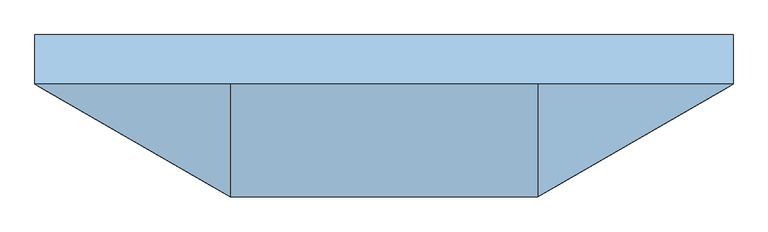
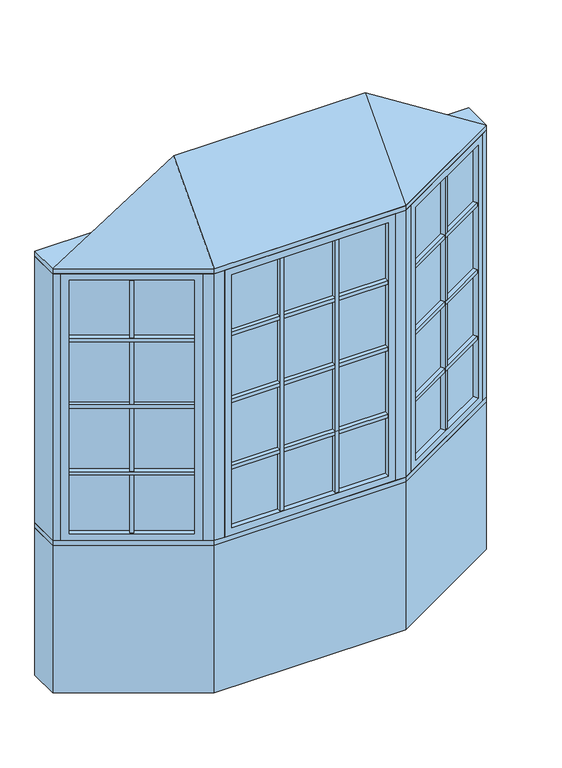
"""IFC4 building model written with IfcOpenShell, lengths in millimetres: window geometry, Pollard_Windows_Tudor Casement Bows and Bays : AML-BAY 30 AFR0614-10-600_GC."""

from ifc_helpers import new_model, si_unit, frame, origin, origin_with_axes, place, context, project, spatial, polyline, outline, extrude, faceted_brep, source, transform, mapped, element, save


def window_83c77013(model_context):
    return source(origin(), model_context, "Body", "SolidModel", [
        extrude(outline(polyline([(546.881999, -376.6297343), (535.881999, -357.5771754), (1002.1135794, -88.3982469), (1013.1135794, -107.4508058), (546.881999, -376.6297343)])), frame((0.0, 0.0, 1490.998), z_axis=(0.0, 0.0, 1.0), x_axis=(1.0, 0.0, 0.0)), (0.0, 0.0, 1.0), 18.0),
        extrude(outline(polyline([(533.341999, -353.1777664), (522.341999, -334.1252075), (988.5735794, -64.946279), (999.5735794, -83.9988379), (533.341999, -353.1777664)])), frame((0.0, 0.0, 1490.998), z_axis=(0.0, 0.0, 1.0), x_axis=(1.0, 0.0, 0.0)), (0.0, 0.0, 1.0), 18.0),
        extrude(outline(polyline([(546.881999, -376.6297343), (535.881999, -357.5771754), (1002.1135794, -88.3982469), (1013.1135794, -107.4508058), (546.881999, -376.6297343)])), frame((0.0, 0.0, 1140.998), z_axis=(0.0, 0.0, 1.0), x_axis=(1.0, 0.0, 0.0)), (0.0, 0.0, 1.0), 18.0),
        extrude(outline(polyline([(533.341999, -353.1777664), (522.341999, -334.1252075), (988.5735794, -64.946279), (999.5735794, -83.9988379), (533.341999, -353.1777664)])), frame((0.0, 0.0, 1140.998), z_axis=(0.0, 0.0, 1.0), x_axis=(1.0, 0.0, 0.0)), (0.0, 0.0, 1.0), 18.0),
        extrude(outline(polyline([(546.881999, -376.6297343), (535.881999, -357.5771754), (1002.1135794, -88.3982469), (1013.1135794, -107.4508058), (546.881999, -376.6297343)])), frame((0.0, 0.0, 1490.998), z_axis=(0.0, 0.0, 1.0), x_axis=(1.0, 0.0, 0.0)), (0.0, 0.0, 1.0), 18.0),
        extrude(outline(polyline([(533.341999, -353.1777664), (522.341999, -334.1252075), (988.5735794, -64.946279), (999.5735794, -83.9988379), (533.341999, -353.1777664)])), frame((0.0, 0.0, 1490.998), z_axis=(0.0, 0.0, 1.0), x_axis=(1.0, 0.0, 0.0)), (0.0, 0.0, 1.0), 18.0),
        extrude(outline(polyline([(546.881999, -376.6297343), (535.881999, -357.5771754), (1002.1135794, -88.3982469), (1013.1135794, -107.4508058), (546.881999, -376.6297343)])), frame((0.0, 0.0, 1490.998), z_axis=(0.0, 0.0, 1.0), x_axis=(1.0, 0.0, 0.0)), (0.0, 0.0, 1.0), 18.0),
        extrude(outline(polyline([(533.341999, -353.1777664), (522.341999, -334.1252075), (988.5735794, -64.946279), (999.5735794, -83.9988379), (533.341999, -353.1777664)])), frame((0.0, 0.0, 1490.998), z_axis=(0.0, 0.0, 1.0), x_axis=(1.0, 0.0, 0.0)), (0.0, 0.0, 1.0), 18.0),
        extrude(outline(polyline([(546.881999, -376.6297343), (535.881999, -357.5771754), (1002.1135794, -88.3982469), (1013.1135794, -107.4508058), (546.881999, -376.6297343)])), frame((0.0, 0.0, 1840.998), z_axis=(0.0, 0.0, 1.0), x_axis=(1.0, 0.0, 0.0)), (0.0, 0.0, 1.0), 18.0),
        extrude(outline(polyline([(533.341999, -353.1777664), (522.341999, -334.1252075), (988.5735794, -64.946279), (999.5735794, -83.9988379), (533.341999, -353.1777664)])), frame((0.0, 0.0, 1840.998), z_axis=(0.0, 0.0, 1.0), x_axis=(1.0, 0.0, 0.0)), (0.0, 0.0, 1.0), 18.0),
        extrude(outline(polyline([(776.7920178, -218.4877112), (787.7920178, -237.5402701), (772.2035606, -246.5402701), (761.2035606, -227.4877112), (776.7920178, -218.4877112)])), frame((0.0, 0.0, 835.8628), z_axis=(0.0, 0.0, 1.0), x_axis=(1.0, 0.0, 0.0)), (0.0, 0.0, 1.0), 1328.2704),
        extrude(outline(polyline([(774.2520178, -214.0883021), (758.6635606, -223.0883021), (747.6635606, -204.0357432), (763.2520178, -195.0357432), (774.2520178, -214.0883021)])), frame((0.0, 0.0, 835.8628), z_axis=(0.0, 0.0, 1.0), x_axis=(1.0, 0.0, 0.0)), (0.0, 0.0, 1.0), 1328.2704),
        extrude(outline(polyline([(1013.112102, -82.0482469), (524.8834764, -363.9271754), (522.3434764, -359.5277664), (1010.572102, -77.6488379), (1013.112102, -82.0482469)])), frame((0.0, 0.0, 823.1628), z_axis=(0.0, 0.0, 1.0), x_axis=(1.0, 0.0, 0.0)), (0.0, 0.0, 1.0), 1353.6704),
        faceted_brep([(1002.1135794, -88.3982469, 835.8628), (1014.8135794, -110.3952922, 835.8628), (1014.8135794, -110.3952922, 2164.1332), (1002.1135794, -88.3982469, 2164.1332), (1010.572102, -77.6488379, 823.1628), (1013.112102, -82.0482469, 823.1628), (1013.112102, -82.0482469, 2176.8332), (1010.572102, -77.6488379, 2176.8332), (986.8735794, -62.0017926, 835.8628), (999.5735794, -83.9988379, 835.8628), (999.5735794, -83.9988379, 2164.1332), (986.8735794, -62.0017926, 2164.1332), (1045.8734073, -92.4628922, 799.998), (1017.9334073, -44.0693926, 799.998), (1017.9334073, -44.0693926, 2199.998), (1045.8734073, -92.4628922, 2199.998), (548.581999, -379.5742207, 2164.1332), (535.881999, -357.5771754, 2164.1332), (524.8834764, -363.9271754, 2176.8332), (522.3434764, -359.5277664, 2176.8332), (533.341999, -353.1777664, 2164.1332), (520.641999, -331.1807211, 2164.1332), (489.5821711, -349.1131211, 2199.998), (517.5221711, -397.5066207, 2199.998), (548.581999, -379.5742207, 835.8628), (535.881999, -357.5771754, 835.8628), (524.8834764, -363.9271754, 823.1628), (522.3434764, -359.5277664, 823.1628), (533.341999, -353.1777664, 835.8628), (520.641999, -331.1807211, 835.8628), (489.5821711, -349.1131211, 799.998), (517.5221711, -397.5066207, 799.998)], [[[0, 1, 2, 3]], [[4, 5, 6, 7]], [[8, 9, 10, 11]], [[12, 13, 14, 15]], [[3, 2, 16, 17]], [[7, 6, 18, 19]], [[11, 10, 20, 21]], [[15, 14, 22, 23]], [[17, 16, 24, 25]], [[19, 18, 26, 27]], [[21, 20, 28, 29]], [[23, 22, 30, 31]], [[25, 24, 1, 0]], [[5, 26, 18, 6], [3, 17, 25, 0]], [[27, 26, 5, 4]], [[7, 19, 27, 4], [9, 28, 20, 10]], [[29, 28, 9, 8]], [[13, 30, 22, 14], [11, 21, 29, 8]], [[31, 30, 13, 12]], [[15, 23, 31, 12], [1, 24, 16, 2]]]),
        extrude(outline(polyline([(145.6855003, -397.1066207), (145.6855003, -419.1066207), (127.6855003, -419.1066207), (127.6855003, -397.1066207), (145.6855003, -397.1066207)])), frame((0.0, 0.0, 835.8628), z_axis=(0.0, 0.0, 1.0), x_axis=(1.0, 0.0, 0.0)), (0.0, 0.0, 1.0), 1328.2704),
        extrude(outline(polyline([(145.6855003, -392.0266207), (127.6855003, -392.0266207), (127.6855003, -370.0266207), (145.6855003, -370.0266207), (145.6855003, -392.0266207)])), frame((0.0, 0.0, 835.8628), z_axis=(0.0, 0.0, 1.0), x_axis=(1.0, 0.0, 0.0)), (0.0, 0.0, 1.0), 1328.2704),
        extrude(outline(polyline([(-127.6855003, -397.1066207), (-127.6855003, -419.1066207), (-145.6855003, -419.1066207), (-145.6855003, -397.1066207), (-127.6855003, -397.1066207)])), frame((0.0, 0.0, 835.8628), z_axis=(0.0, 0.0, 1.0), x_axis=(1.0, 0.0, 0.0)), (0.0, 0.0, 1.0), 1328.2704),
        extrude(outline(polyline([(-127.6855003, -392.0266207), (-145.6855003, -392.0266207), (-145.6855003, -370.0266207), (-127.6855003, -370.0266207), (-127.6855003, -392.0266207)])), frame((0.0, 0.0, 835.8628), z_axis=(0.0, 0.0, 1.0), x_axis=(1.0, 0.0, 0.0)), (0.0, 0.0, 1.0), 1328.2704),
        extrude(outline(polyline([(-388.3561009, -419.1066207), (-388.3561009, -397.1066207), (388.3561009, -397.1066207), (388.3561009, -419.1066207), (-388.3561009, -419.1066207)])), frame((0.0, 0.0, 1140.998), z_axis=(0.0, 0.0, 1.0), x_axis=(1.0, 0.0, 0.0)), (0.0, 0.0, 1.0), 18.0),
        extrude(outline(polyline([(-388.3561009, -392.0266207), (-388.3561009, -370.0266207), (388.3561009, -370.0266207), (388.3561009, -392.0266207), (-388.3561009, -392.0266207)])), frame((0.0, 0.0, 1140.998), z_axis=(0.0, 0.0, 1.0), x_axis=(1.0, 0.0, 0.0)), (0.0, 0.0, 1.0), 18.0),
        extrude(outline(polyline([(-388.3561009, -419.1066207), (-388.3561009, -397.1066207), (388.3561009, -397.1066207), (388.3561009, -419.1066207), (-388.3561009, -419.1066207)])), frame((0.0, 0.0, 1490.998), z_axis=(0.0, 0.0, 1.0), x_axis=(1.0, 0.0, 0.0)), (0.0, 0.0, 1.0), 18.0),
        extrude(outline(polyline([(-388.3561009, -392.0266207), (-388.3561009, -370.0266207), (388.3561009, -370.0266207), (388.3561009, -392.0266207), (-388.3561009, -392.0266207)])), frame((0.0, 0.0, 1490.998), z_axis=(0.0, 0.0, 1.0), x_axis=(1.0, 0.0, 0.0)), (0.0, 0.0, 1.0), 18.0),
        extrude(outline(polyline([(-388.3561009, -419.1066207), (-388.3561009, -397.1066207), (388.3561009, -397.1066207), (388.3561009, -419.1066207), (-388.3561009, -419.1066207)])), frame((0.0, 0.0, 1490.998), z_axis=(0.0, 0.0, 1.0), x_axis=(1.0, 0.0, 0.0)), (0.0, 0.0, 1.0), 18.0),
        extrude(outline(polyline([(-388.3561009, -392.0266207), (-388.3561009, -370.0266207), (388.3561009, -370.0266207), (388.3561009, -392.0266207), (-388.3561009, -392.0266207)])), frame((0.0, 0.0, 1490.998), z_axis=(0.0, 0.0, 1.0), x_axis=(1.0, 0.0, 0.0)), (0.0, 0.0, 1.0), 18.0),
        extrude(outline(polyline([(-388.3561009, -419.1066207), (-388.3561009, -397.1066207), (388.3561009, -397.1066207), (388.3561009, -419.1066207), (-388.3561009, -419.1066207)])), frame((0.0, 0.0, 1490.998), z_axis=(0.0, 0.0, 1.0), x_axis=(1.0, 0.0, 0.0)), (0.0, 0.0, 1.0), 18.0),
        extrude(outline(polyline([(-388.3561009, -392.0266207), (-388.3561009, -370.0266207), (388.3561009, -370.0266207), (388.3561009, -392.0266207), (-388.3561009, -392.0266207)])), frame((0.0, 0.0, 1490.998), z_axis=(0.0, 0.0, 1.0), x_axis=(1.0, 0.0, 0.0)), (0.0, 0.0, 1.0), 18.0),
        extrude(outline(polyline([(-1013.1135794, -107.4508058), (-1002.1135794, -88.3982469), (-535.881999, -357.5771754), (-546.881999, -376.6297343), (-1013.1135794, -107.4508058)])), frame((0.0, 0.0, 1140.998), z_axis=(0.0, 0.0, 1.0), x_axis=(1.0, 0.0, 0.0)), (0.0, 0.0, 1.0), 18.0),
        extrude(outline(polyline([(-999.5735794, -83.9988379), (-988.5735794, -64.946279), (-522.341999, -334.1252075), (-533.341999, -353.1777664), (-999.5735794, -83.9988379)])), frame((0.0, 0.0, 1140.998), z_axis=(0.0, 0.0, 1.0), x_axis=(1.0, 0.0, 0.0)), (0.0, 0.0, 1.0), 18.0),
        extrude(outline(polyline([(-1013.1135794, -107.4508058), (-1002.1135794, -88.3982469), (-535.881999, -357.5771754), (-546.881999, -376.6297343), (-1013.1135794, -107.4508058)])), frame((0.0, 0.0, 1490.998), z_axis=(0.0, 0.0, 1.0), x_axis=(1.0, 0.0, 0.0)), (0.0, 0.0, 1.0), 18.0),
        extrude(outline(polyline([(-999.5735794, -83.9988379), (-988.5735794, -64.946279), (-522.341999, -334.1252075), (-533.341999, -353.1777664), (-999.5735794, -83.9988379)])), frame((0.0, 0.0, 1490.998), z_axis=(0.0, 0.0, 1.0), x_axis=(1.0, 0.0, 0.0)), (0.0, 0.0, 1.0), 18.0),
        extrude(outline(polyline([(-1013.1135794, -107.4508058), (-1002.1135794, -88.3982469), (-535.881999, -357.5771754), (-546.881999, -376.6297343), (-1013.1135794, -107.4508058)])), frame((0.0, 0.0, 1490.998), z_axis=(0.0, 0.0, 1.0), x_axis=(1.0, 0.0, 0.0)), (0.0, 0.0, 1.0), 18.0),
        extrude(outline(polyline([(-999.5735794, -83.9988379), (-988.5735794, -64.946279), (-522.341999, -334.1252075), (-533.341999, -353.1777664), (-999.5735794, -83.9988379)])), frame((0.0, 0.0, 1490.998), z_axis=(0.0, 0.0, 1.0), x_axis=(1.0, 0.0, 0.0)), (0.0, 0.0, 1.0), 18.0),
        extrude(outline(polyline([(-1013.1135794, -107.4508058), (-1002.1135794, -88.3982469), (-535.881999, -357.5771754), (-546.881999, -376.6297343), (-1013.1135794, -107.4508058)])), frame((0.0, 0.0, 1490.998), z_axis=(0.0, 0.0, 1.0), x_axis=(1.0, 0.0, 0.0)), (0.0, 0.0, 1.0), 18.0),
        extrude(outline(polyline([(-999.5735794, -83.9988379), (-988.5735794, -64.946279), (-522.341999, -334.1252075), (-533.341999, -353.1777664), (-999.5735794, -83.9988379)])), frame((0.0, 0.0, 1490.998), z_axis=(0.0, 0.0, 1.0), x_axis=(1.0, 0.0, 0.0)), (0.0, 0.0, 1.0), 18.0),
        extrude(outline(polyline([(-1013.1135794, -107.4508058), (-1002.1135794, -88.3982469), (-535.881999, -357.5771754), (-546.881999, -376.6297343), (-1013.1135794, -107.4508058)])), frame((0.0, 0.0, 1840.998), z_axis=(0.0, 0.0, 1.0), x_axis=(1.0, 0.0, 0.0)), (0.0, 0.0, 1.0), 18.0),
        extrude(outline(polyline([(-999.5735794, -83.9988379), (-988.5735794, -64.946279), (-522.341999, -334.1252075), (-533.341999, -353.1777664), (-999.5735794, -83.9988379)])), frame((0.0, 0.0, 1840.998), z_axis=(0.0, 0.0, 1.0), x_axis=(1.0, 0.0, 0.0)), (0.0, 0.0, 1.0), 18.0),
        extrude(outline(polyline([(-388.3561009, -419.1066207), (-388.3561009, -397.1066207), (388.3561009, -397.1066207), (388.3561009, -419.1066207), (-388.3561009, -419.1066207)])), frame((0.0, 0.0, 1840.998), z_axis=(0.0, 0.0, 1.0), x_axis=(1.0, 0.0, 0.0)), (0.0, 0.0, 1.0), 18.0),
        extrude(outline(polyline([(-388.3561009, -392.0266207), (-388.3561009, -370.0266207), (388.3561009, -370.0266207), (388.3561009, -392.0266207), (-388.3561009, -392.0266207)])), frame((0.0, 0.0, 1840.998), z_axis=(0.0, 0.0, 1.0), x_axis=(1.0, 0.0, 0.0)), (0.0, 0.0, 1.0), 18.0),
        extrude(outline(polyline([(-761.2035606, -227.4877112), (-772.2035606, -246.5402701), (-787.7920178, -237.5402701), (-776.7920178, -218.4877112), (-761.2035606, -227.4877112)])), frame((0.0, 0.0, 835.8628), z_axis=(0.0, 0.0, 1.0), x_axis=(1.0, 0.0, 0.0)), (0.0, 0.0, 1.0), 1328.2704),
        extrude(outline(polyline([(-758.6635606, -223.0883021), (-774.2520178, -214.0883021), (-763.2520178, -195.0357432), (-747.6635606, -204.0357432), (-758.6635606, -223.0883021)])), frame((0.0, 0.0, 835.8628), z_axis=(0.0, 0.0, 1.0), x_axis=(1.0, 0.0, 0.0)), (0.0, 0.0, 1.0), 1328.2704),
        extrude(outline(polyline([(-524.8834764, -363.9271754), (-1013.112102, -82.0482469), (-1010.572102, -77.6488379), (-522.3434764, -359.5277664), (-524.8834764, -363.9271754)])), frame((0.0, 0.0, 823.1628), z_axis=(0.0, 0.0, 1.0), x_axis=(1.0, 0.0, 0.0)), (0.0, 0.0, 1.0), 1353.6704),
        faceted_brep([(-533.341999, -353.1777664, 2164.1332), (-520.641999, -331.1807211, 2164.1332), (-520.641999, -331.1807211, 835.8628), (-533.341999, -353.1777664, 835.8628), (-524.8834764, -363.9271754, 2176.8332), (-522.3434764, -359.5277664, 2176.8332), (-522.3434764, -359.5277664, 823.1628), (-524.8834764, -363.9271754, 823.1628), (-548.581999, -379.5742207, 2164.1332), (-535.881999, -357.5771754, 2164.1332), (-535.881999, -357.5771754, 835.8628), (-548.581999, -379.5742207, 835.8628), (-489.5821711, -349.1131211, 2199.998), (-517.5221711, -397.5066207, 2199.998), (-517.5221711, -397.5066207, 799.998), (-489.5821711, -349.1131211, 799.998), (-986.8735794, -62.0017926, 835.8628), (-999.5735794, -83.9988379, 835.8628), (-1010.572102, -77.6488379, 823.1628), (-1013.112102, -82.0482469, 823.1628), (-1002.1135794, -88.3982469, 835.8628), (-1014.8135794, -110.3952922, 835.8628), (-1045.8734073, -92.4628922, 799.998), (-1017.9334073, -44.0693926, 799.998), (-986.8735794, -62.0017926, 2164.1332), (-999.5735794, -83.9988379, 2164.1332), (-1010.572102, -77.6488379, 2176.8332), (-1013.112102, -82.0482469, 2176.8332), (-1002.1135794, -88.3982469, 2164.1332), (-1014.8135794, -110.3952922, 2164.1332), (-1045.8734073, -92.4628922, 2199.998), (-1017.9334073, -44.0693926, 2199.998)], [[[0, 1, 2, 3]], [[4, 5, 6, 7]], [[8, 9, 10, 11]], [[12, 13, 14, 15]], [[3, 2, 16, 17]], [[7, 6, 18, 19]], [[11, 10, 20, 21]], [[15, 14, 22, 23]], [[17, 16, 24, 25]], [[19, 18, 26, 27]], [[21, 20, 28, 29]], [[23, 22, 30, 31]], [[15, 23, 31, 12], [1, 24, 16, 2]], [[25, 24, 1, 0]], [[5, 26, 18, 6], [3, 17, 25, 0]], [[27, 26, 5, 4]], [[7, 19, 27, 4], [9, 28, 20, 10]], [[29, 28, 9, 8]], [[13, 30, 22, 14], [11, 21, 29, 8]], [[31, 30, 13, 12]]]),
        extrude(outline(polyline([(401.0561009, -397.1066207), (-401.0561009, -397.1066207), (-401.0561009, -392.0266207), (401.0561009, -392.0266207), (401.0561009, -397.1066207)])), frame((0.0, 0.0, 823.1628), z_axis=(0.0, 0.0, 1.0), x_axis=(1.0, 0.0, 0.0)), (0.0, 0.0, 1.0), 1353.6704),
        faceted_brep([(388.3561009, -397.1066207, 835.8628), (388.3561009, -422.5066207, 835.8628), (388.3561009, -422.5066207, 2164.1332), (388.3561009, -397.1066207, 2164.1332), (401.0561009, -392.0266207, 823.1628), (401.0561009, -397.1066207, 823.1628), (401.0561009, -397.1066207, 2176.8332), (401.0561009, -392.0266207, 2176.8332), (388.3561009, -366.6266207, 835.8628), (388.3561009, -392.0266207, 835.8628), (388.3561009, -392.0266207, 2164.1332), (388.3561009, -366.6266207, 2164.1332), (424.2209009, -422.5066207, 799.998), (424.2209009, -366.6266207, 799.998), (424.2209009, -366.6266207, 2199.998), (424.2209009, -422.5066207, 2199.998), (-388.3561009, -422.5066207, 2164.1332), (-388.3561009, -397.1066207, 2164.1332), (-401.0561009, -397.1066207, 2176.8332), (-401.0561009, -392.0266207, 2176.8332), (-388.3561009, -392.0266207, 2164.1332), (-388.3561009, -366.6266207, 2164.1332), (-424.2209009, -366.6266207, 2199.998), (-424.2209009, -422.5066207, 2199.998), (-388.3561009, -422.5066207, 835.8628), (-388.3561009, -397.1066207, 835.8628), (-401.0561009, -397.1066207, 823.1628), (-401.0561009, -392.0266207, 823.1628), (-388.3561009, -392.0266207, 835.8628), (-388.3561009, -366.6266207, 835.8628), (-424.2209009, -366.6266207, 799.998), (-424.2209009, -422.5066207, 799.998)], [[[0, 1, 2, 3]], [[4, 5, 6, 7]], [[8, 9, 10, 11]], [[12, 13, 14, 15]], [[3, 2, 16, 17]], [[7, 6, 18, 19]], [[11, 10, 20, 21]], [[15, 14, 22, 23]], [[17, 16, 24, 25]], [[19, 18, 26, 27]], [[21, 20, 28, 29]], [[23, 22, 30, 31]], [[15, 23, 31, 12], [1, 24, 16, 2]], [[25, 24, 1, 0]], [[5, 26, 18, 6], [3, 17, 25, 0]], [[27, 26, 5, 4]], [[7, 19, 27, 4], [9, 28, 20, 10]], [[29, 28, 9, 8]], [[13, 30, 22, 14], [11, 21, 29, 8]], [[31, 30, 13, 12]]]),
        faceted_brep([(1076.5, -74.7806207, 2225.398), (474.2209009, -422.5066207, 2225.398), (-474.2209009, -422.5066207, 2225.398), (-1076.5, -74.7806207, 2225.398), (-474.2209009, -74.7806207, 2606.398), (474.2209009, -74.7806207, 2606.398)], [[[0, 1, 2, 3]], [[3, 2, 4]], [[2, 1, 5, 4]], [[1, 0, 5]], [[0, 3, 4, 5]]]),
        extrude(outline(polyline([(-1076.5, 77.6193793), (1076.5, 77.6193793), (1076.5, -74.7806207), (474.2209009, -422.5066207), (-474.2209009, -422.5066207), (-1076.5, -74.7806207), (-1076.5, 77.6193793)])), frame((0.0, 0.0, 2199.998), z_axis=(0.0, 0.0, 1.0), x_axis=(1.0, 0.0, 0.0)), (0.0, 0.0, 1.0), 25.4),
        extrude(outline(polyline([(-1076.5, -74.7806207), (-1076.5, 77.6193793), (-1035.6645431, 77.6193793), (-1035.6645431, -74.7806207), (-1045.8734073, -92.4628922), (-1076.5, -74.7806207)])), frame((0.0, 0.0, 799.998), z_axis=(0.0, 0.0, 1.0), x_axis=(1.0, 0.0, 0.0)), (0.0, 0.0, 1.0), 1400.0),
        extrude(outline(polyline([(1076.5, 77.6193793), (1076.5, -74.7806207), (1045.8734073, -92.4628922), (1035.6645431, -74.7806207), (1035.6645431, 77.6193793), (1076.5, 77.6193793)])), frame((0.0, 0.0, 799.998), z_axis=(0.0, 0.0, 1.0), x_axis=(1.0, 0.0, 0.0)), (0.0, 0.0, 1.0), 1400.0),
        extrude(outline(polyline([(474.2209009, -422.5066207), (424.2209009, -422.5066207), (424.2209009, -372.5066207), (460.8234413, -372.5066207), (492.5221711, -354.2053505), (517.5221711, -397.5066207), (474.2209009, -422.5066207)])), frame((0.0, 0.0, 799.998), z_axis=(0.0, 0.0, 1.0), x_axis=(1.0, 0.0, 0.0)), (0.0, 0.0, 1.0), 1400.0),
        extrude(outline(polyline([(-474.2209009, -422.5066207), (-517.5221711, -397.5066207), (-492.5221711, -354.2053505), (-460.8234413, -372.5066207), (-424.2209009, -372.5066207), (-424.2209009, -422.5066207), (-474.2209009, -422.5066207)])), frame((0.0, 0.0, 799.998), z_axis=(0.0, 0.0, 1.0), x_axis=(1.0, 0.0, 0.0)), (0.0, 0.0, 1.0), 1400.0),
        extrude(outline(polyline([(-474.2209009, -422.5066207), (-1076.5, -74.7806207), (-1076.5, 77.6193793), (-1035.6645431, 77.6193793), (-433.385444, -270.1066207), (433.385444, -270.1066207), (1035.6645431, 77.6193793), (1076.5, 77.6193793), (1076.5, -74.7806207), (474.2209009, -422.5066207), (-474.2209009, -422.5066207)])), frame((0.0, 0.0, 774.598), z_axis=(0.0, 0.0, 1.0), x_axis=(1.0, 0.0, 0.0)), (0.0, 0.0, 1.0), 25.4),
        extrude(outline(polyline([(-1076.5, -74.7806207), (-1076.5, 77.6193793), (-1035.6645431, 77.6193793), (-433.385444, -270.1066207), (433.385444, -270.1066207), (1035.6645431, 77.6193793), (1076.5, 77.6193793), (1076.5, -74.7806207), (474.2209009, -422.5066207), (-474.2209009, -422.5066207), (-1076.5, -74.7806207)])), origin_with_axes(), (0.0, 0.0, 1.0), 774.598),
    ])


if __name__ == "__main__":
    model = new_model("IFC4")
    model_context = context("Model", 3, world=origin())
    ifc_project = project(units=[si_unit("LENGTHUNIT", "METRE", prefix="MILLI")], contexts=[model_context])
    site = spatial("IfcSite", under=ifc_project)
    building = spatial("IfcBuilding", under=site)
    placement = place(None, origin())
    window_shape = window_83c77013(model_context)
    element("IfcWindow", 1, ObjectType="Pollard_Windows_Tudor Casement Bows and Bays : AML-BAY 30 AFR0614-10-600_GC", at=placement, inside=building, context=model_context, shape_type="MappedRepresentation", body=[
        mapped(window_shape, transform((0.0, 0.0, 0.0), x_axis=(1.0, 0.0, 0.0), y_axis=(0.0, 1.0, 0.0), z_axis=(0.0, 0.0, 1.0))),
    ])
    save(model, "model.ifc")
